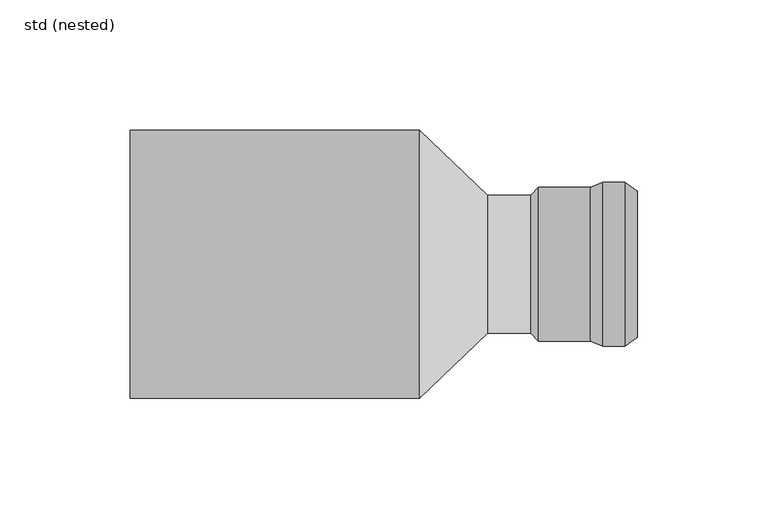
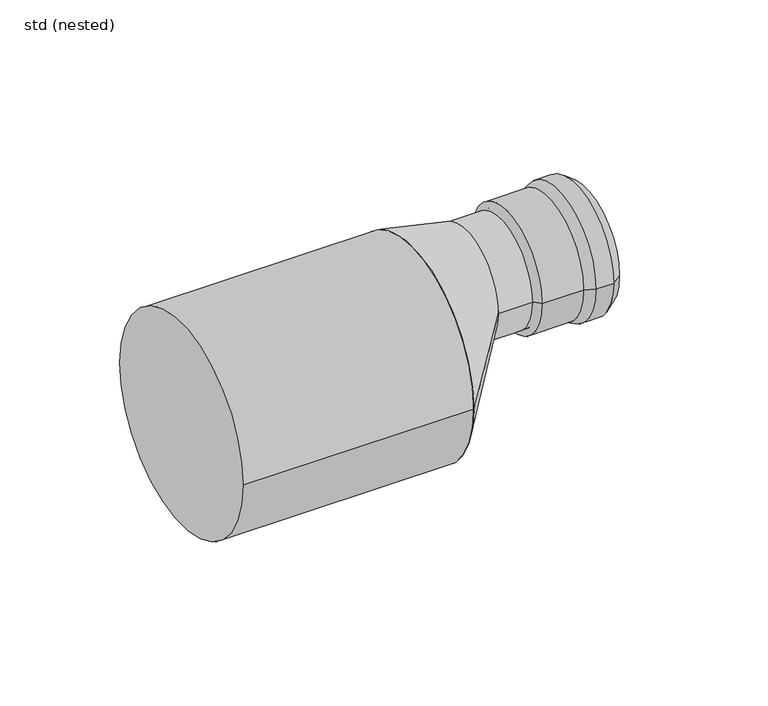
"""IFC4 building model written with IfcOpenShell, lengths in millimetres: pipe fitting geometry, ZZZ_do not use_PIF_ST_UN_GM-X transition element_ACO : std (nested)."""

from ifc_helpers import new_model, si_unit, point, frame, frame_2d, origin, origin_2d, place, context, project, spatial, polyline, circle_curve, trimmed, segment, composite_curve, outline, extrude, source, transform, mapped, element, save
from ifc_brep_helpers import plane_surface, cylinder_surface, revolved_surface, spline_surface, advanced_brep


def std_nested_28663e90(model_context):
    return source(origin(), model_context, "Body", "SolidModel", [
        advanced_brep(
        [(103.3, -31.5, 24.14), (103.3, 31.5, 24.14), (111.7, 31.5, 24.14), (111.7, -31.5, 24.14), (98.5, -29.5, 24.14), (98.5, 29.5, 24.14), (116.5, 28.0, 24.14), (116.5, -28.0, 24.14), (78.5, -29.5, 24.14), (78.5, 29.5, 24.14), (75.5, -26.5, 24.14), (75.5, 26.5, 24.14), (78.5, -26.5, 24.14), (78.5, 26.5, 24.14), (98.8, -28.0, 24.14), (98.8, 28.0, 24.14), (78.5, 28.0, 24.14), (78.5, -28.0, 24.14), (103.6, -30.0, 24.14), (103.6, 30.0, 24.14), (111.2111977, -30.0, 24.14), (111.2111977, 30.0, 24.14), (115.6162418, -26.7879887, 24.14), (115.6162418, 26.7879887, 24.14)],
        [
            (0, 1, circle_curve(frame((103.3, 0.0, 24.14), z_axis=(1.0, 0.0, 0.0), x_axis=(0.0, 1.0, 0.0)), 31.5)),
            (1, 2),
            (2, 3, circle_curve(frame((111.7, 0.0, 24.14), z_axis=(-1.0, 0.0, 0.0), x_axis=(0.0, 1.0, 0.0)), 31.5)),
            (3, 0),
            (1, 0, circle_curve(frame((103.3, 0.0, 24.14), z_axis=(1.0, 0.0, 0.0), x_axis=(0.0, 1.0, 0.0)), 31.5)),
            (3, 2, circle_curve(frame((111.7, 0.0, 24.14), z_axis=(-1.0, 0.0, 0.0), x_axis=(0.0, 1.0, 0.0)), 31.5)),
            (4, 5, circle_curve(frame((98.5, 0.0, 24.14), z_axis=(1.0, 0.0, 0.0), x_axis=(0.0, 1.0, 0.0)), 29.5)),
            (5, 1),
            (0, 4),
            (5, 4, circle_curve(frame((98.5, 0.0, 24.14), z_axis=(1.0, 0.0, 0.0), x_axis=(0.0, 1.0, 0.0)), 29.5)),
            (2, 6),
            (6, 7, circle_curve(frame((116.5, 0.0, 24.14), z_axis=(-1.0, 0.0, 0.0), x_axis=(0.0, 1.0, 0.0)), 28.0)),
            (7, 3),
            (7, 6, circle_curve(frame((116.5, 0.0, 24.14), z_axis=(-1.0, 0.0, 0.0), x_axis=(0.0, 1.0, 0.0)), 28.0)),
            (8, 9, circle_curve(frame((78.5, 0.0, 24.14), z_axis=(1.0, 0.0, 0.0), x_axis=(0.0, 1.0, 0.0)), 29.5)),
            (9, 5),
            (4, 8),
            (9, 8, circle_curve(frame((78.5, 0.0, 24.14), z_axis=(1.0, 0.0, 0.0), x_axis=(0.0, 1.0, 0.0)), 29.5)),
            (10, 11, circle_curve(frame((75.5, 0.0, 24.14), z_axis=(1.0, 0.0, 0.0), x_axis=(0.0, 1.0, 0.0)), 26.5)),
            (11, 9),
            (8, 10),
            (11, 10, circle_curve(frame((75.5, 0.0, 24.14), z_axis=(1.0, 0.0, 0.0), x_axis=(0.0, 1.0, 0.0)), 26.5)),
            (12, 13, circle_curve(frame((78.5, 0.0, 24.14), z_axis=(1.0, 0.0, 0.0), x_axis=(0.0, 1.0, 0.0)), 26.5)),
            (13, 11),
            (10, 12),
            (13, 12, circle_curve(frame((78.5, 0.0, 24.14), z_axis=(1.0, 0.0, 0.0), x_axis=(0.0, 1.0, 0.0)), 26.5)),
            (14, 15, circle_curve(frame((98.8, 0.0, 24.14), z_axis=(1.0, 0.0, 0.0), x_axis=(0.0, 1.0, 0.0)), 28.0)),
            (15, 16),
            (16, 17, circle_curve(frame((78.5, 0.0, 24.14), z_axis=(-1.0, 0.0, 0.0), x_axis=(0.0, 1.0, 0.0)), 28.0)),
            (17, 14),
            (15, 14, circle_curve(frame((98.8, 0.0, 24.14), z_axis=(1.0, 0.0, 0.0), x_axis=(0.0, 1.0, 0.0)), 28.0)),
            (17, 16, circle_curve(frame((78.5, 0.0, 24.14), z_axis=(-1.0, 0.0, 0.0), x_axis=(0.0, 1.0, 0.0)), 28.0)),
            (18, 19, circle_curve(frame((103.6, 0.0, 24.14), z_axis=(1.0, 0.0, 0.0), x_axis=(0.0, 1.0, 0.0)), 30.0)),
            (19, 15),
            (14, 18),
            (19, 18, circle_curve(frame((103.6, 0.0, 24.14), z_axis=(1.0, 0.0, 0.0), x_axis=(0.0, 1.0, 0.0)), 30.0)),
            (20, 21, circle_curve(frame((111.2111977, 0.0, 24.14), z_axis=(1.0, 0.0, 0.0), x_axis=(0.0, 1.0, 0.0)), 30.0)),
            (21, 19),
            (18, 20),
            (21, 20, circle_curve(frame((111.2111977, 0.0, 24.14), z_axis=(1.0, 0.0, 0.0), x_axis=(0.0, 1.0, 0.0)), 30.0)),
            (22, 23, circle_curve(frame((115.6162418, 0.0, 24.14), z_axis=(1.0, 0.0, 0.0), x_axis=(0.0, 1.0, 0.0)), 26.7879887)),
            (23, 21),
            (20, 22),
            (23, 22, circle_curve(frame((115.6162418, 0.0, 24.14), z_axis=(1.0, 0.0, 0.0), x_axis=(0.0, 1.0, 0.0)), 26.7879887)),
            (6, 23),
            (22, 7),
            (16, 13),
            (12, 17),
        ],
        [
            cylinder_surface(frame((113.1444117, 0.0, 24.14), z_axis=(-1.0, 0.0, 0.0), x_axis=(0.0, 1.0, 0.0)), 31.5),
            revolved_surface(polyline([(103.3, 31.5, 24.14), (98.5, 29.5, 24.14)]), (113.1444117, 0.0, 24.14), (-1.0, 0.0, 0.0)),
            revolved_surface(polyline([(116.5, 28.0, 24.14), (111.7, 31.5, 24.14)]), (113.1444117, 0.0, 24.14), (-1.0, 0.0, 0.0)),
            cylinder_surface(frame((113.1444117, 0.0, 24.14), z_axis=(-1.0, 0.0, 0.0), x_axis=(0.0, 1.0, 0.0)), 29.5),
            revolved_surface(polyline([(78.5, 29.5, 24.14), (75.5, 26.5, 24.14)]), (113.1444117, 0.0, 24.14), (-1.0, 0.0, 0.0)),
            revolved_surface(polyline([(75.5, 26.5, 24.14), (78.5, 26.5, 24.14)]), (113.1444117, 0.0, 24.14), (-1.0, 0.0, 0.0)),
            revolved_surface(polyline([(78.5, 28.0, 24.14), (98.8, 28.0, 24.14)]), (113.1444117, 0.0, 24.14), (-1.0, 0.0, 0.0)),
            revolved_surface(polyline([(98.8, 28.0, 24.14), (103.6, 30.0, 24.14)]), (113.1444117, 0.0, 24.14), (-1.0, 0.0, 0.0)),
            revolved_surface(polyline([(103.6, 30.0, 24.14), (111.2111977, 30.0, 24.14)]), (113.1444117, 0.0, 24.14), (-1.0, 0.0, 0.0)),
            revolved_surface(polyline([(111.2111977, 30.0, 24.14), (115.6162418, 26.7879887, 24.14)]), (113.1444117, 0.0, 24.14), (-1.0, 0.0, 0.0)),
            revolved_surface(polyline([(115.6162418, 26.7879887, 24.14), (116.5, 28.0, 24.14)]), (113.1444117, 0.0, 24.14), (-1.0, 0.0, 0.0)),
            plane_surface(frame((78.5, 0.0, 24.14), z_axis=(1.0, 0.0, 0.0), x_axis=(0.0, 1.0, 0.0))),
        ],
        [
            (0, [[1, 2, 3, 4]]),
            (0, [[5, -4, 6, -2]]),
            (1, [[7, 8, -1, 9]]),
            (1, [[10, -9, -5, -8]]),
            (2, [[-3, 11, 12, 13]]),
            (2, [[-6, -13, 14, -11]]),
            (3, [[15, 16, -7, 17]]),
            (3, [[18, -17, -10, -16]]),
            (4, [[19, 20, -15, 21]]),
            (4, [[22, -21, -18, -20]]),
            (5, [[23, 24, -19, 25]]),
            (5, [[26, -25, -22, -24]]),
            (6, [[27, 28, 29, 30]]),
            (6, [[31, -30, 32, -28]]),
            (7, [[33, 34, -27, 35]]),
            (7, [[36, -35, -31, -34]]),
            (8, [[37, 38, -33, 39]]),
            (8, [[40, -39, -36, -38]]),
            (9, [[41, 42, -37, 43]]),
            (9, [[44, -43, -40, -42]]),
            (10, [[-12, 45, -41, 46]]),
            (10, [[-14, -46, -44, -45]]),
            (11, [[-29, 47, -23, 48]]),
            (11, [[-32, -48, -26, -47]]),
        ],
    ),
        advanced_brep(
        [(58.875, -26.5, 24.14), (58.875, 26.5, 24.14), (32.7083333, -51.5, 0.0), (32.7083333, 51.5, 0.0)],
        [
            (0, 1, circle_curve(frame((58.875, 0.0, 24.14), z_axis=(1.0, 0.0, 0.0), x_axis=(0.0, 1.0, 0.0)), 26.5)),
            (1, 0, circle_curve(frame((58.875, 0.0, 24.14), z_axis=(1.0, 0.0, 0.0), x_axis=(0.0, 1.0, 0.0)), 26.5)),
            (2, 3, circle_curve(frame((32.7083333, 0.0, 0.0), z_axis=(-1.0, 0.0, 0.0), x_axis=(0.0, 1.0, 0.0)), 51.5)),
            (3, 2, circle_curve(frame((32.7083333, 0.0, 0.0), z_axis=(-1.0, 0.0, 0.0), x_axis=(0.0, 1.0, 0.0)), 51.5)),
            (3, 1),
            (0, 2),
        ],
        [
            plane_surface(frame((58.875, 0.0, 24.14), z_axis=(1.0, 0.0, 0.0), x_axis=(0.0, 0.0, -1.0))),
            plane_surface(frame((32.7083333, 0.0, 0.0), z_axis=(-1.0, 0.0, 0.0), x_axis=(0.0, 0.0, -1.0))),
            spline_surface(2, 1, [[(32.7083333, -51.5, 0.0), (58.875, -26.5, 24.14)], [(32.7083333, -51.5, -51.5), (58.875, -26.5, -2.3599999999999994)], [(32.7083333, 0.0, -51.5), (58.875, 0.0, -2.3599999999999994)], [(32.7083333, 51.5, -51.5), (58.875, 26.5, -2.3599999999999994)], [(32.7083333, 51.5, 0.0), (58.875, 26.5, 24.14)]], [3, 2, 3], [2, 2], [0.0, 1.0, 2.0], [0.0, 1.0], weights=[[1.0, 1.0], [0.7071067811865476, 0.7071067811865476], [1.0, 1.0], [0.7071067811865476, 0.7071067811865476], [1.0, 1.0]]),
            spline_surface(2, 1, [[(32.7083333, 51.5, 0.0), (58.875, 26.5, 24.14)], [(32.7083333, 51.5, 51.5), (58.875, 26.5, 50.64)], [(32.7083333, 0.0, 51.5), (58.875, 0.0, 50.64)], [(32.7083333, -51.5, 51.5), (58.875, -26.5, 50.64)], [(32.7083333, -51.5, 0.0), (58.875, -26.5, 24.14)]], [3, 2, 3], [2, 2], [0.0, 1.0, 2.0], [0.0, 1.0], weights=[[1.0, 1.0], [0.7071067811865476, 0.7071067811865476], [1.0, 1.0], [0.7071067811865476, 0.7071067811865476], [1.0, 1.0]]),
        ],
        [
            (0, [[1, 2]]),
            (1, [[3, 4]]),
            (2, [[-4, 5, -1, 6]]),
            (3, [[-3, -6, -2, -5]]),
        ],
    ),
        extrude(outline(composite_curve([segment(trimmed(circle_curve(frame_2d((0.0, 24.14)), 26.5), [point((26.5, 24.14))], [point((-26.5, 24.14))], False, "CARTESIAN"), True, "CONTINUOUS"), segment(trimmed(circle_curve(frame_2d((0.0, 24.14)), 26.5), [point((-26.5, 24.14))], [point((26.5, 24.14))], False, "CARTESIAN"), True, "CONTINUOUS")], self_intersect=False)), frame((58.875, 0.0, 0.0), z_axis=(1.0, 0.0, 0.0), x_axis=(0.0, 1.0, 0.0)), (0.0, 0.0, 1.0), 19.625),
        extrude(outline(composite_curve([segment(trimmed(circle_curve(origin_2d(), 51.5), [point((-51.5, 0.0))], [point((51.5, 0.0))], False, "CARTESIAN"), True, "CONTINUOUS"), segment(trimmed(circle_curve(origin_2d(), 51.5), [point((51.5, 0.0))], [point((-51.5, 0.0))], False, "CARTESIAN"), True, "CONTINUOUS")], self_intersect=False)), frame((-78.5, 0.0, 0.0), z_axis=(1.0, 0.0, 0.0), x_axis=(0.0, 1.0, 0.0)), (0.0, 0.0, 1.0), 111.2083333),
    ])


if __name__ == "__main__":
    model = new_model("IFC4")
    model_context = context("Model", 3, world=origin())
    ifc_project = project(units=[si_unit("LENGTHUNIT", "METRE", prefix="MILLI")], contexts=[model_context])
    site = spatial("IfcSite", under=ifc_project)
    building = spatial("IfcBuilding", under=site)
    placement = place(None, origin())
    std_nested_shape = std_nested_28663e90(model_context)
    element("IfcPipeFitting", 1, ObjectType="ZZZ_do not use_PIF_ST_UN_GM-X transition element_ACO : std (nested)", at=placement, inside=building, context=model_context, shape_type="MappedRepresentation", body=[
        mapped(std_nested_shape, transform((0.0, 0.0, 0.0), x_axis=(1.0, 0.0, 0.0), y_axis=(0.0, 1.0, 0.0), z_axis=(0.0, 0.0, 1.0))),
    ])
    save(model, "model.ifc")
